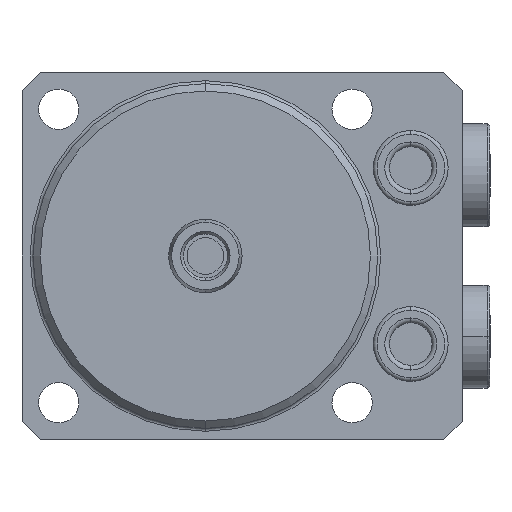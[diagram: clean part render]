
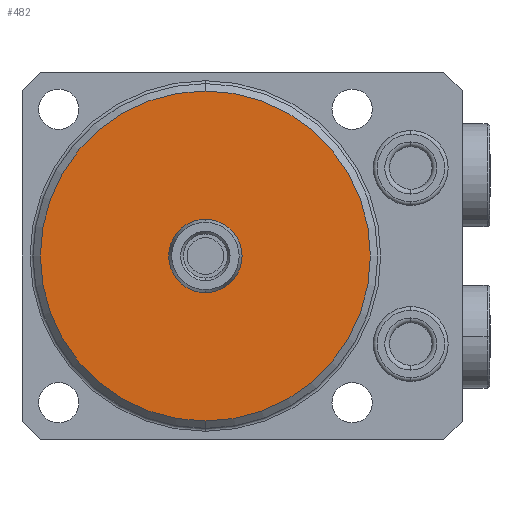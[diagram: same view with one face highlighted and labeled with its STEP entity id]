
A CAD part, front view. The second image highlights one B-rep face of the part: STEP entity #482.
In plain terms, the highlighted planar face has unit normal (0, -1, 0) as drawn and (0, 1, 0) by its records, which use the part's own axes.
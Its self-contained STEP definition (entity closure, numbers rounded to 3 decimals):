
#214=PLANE('',#4934);
#324=FACE_BOUND('',#1144,.F.);
#325=FACE_BOUND('',#1145,.F.);
#482=ADVANCED_FACE('',(#324,#325),#214,.T.);
#1144=EDGE_LOOP('',(#2046,#2047));
#1145=EDGE_LOOP('',(#2048,#2049));
#1430=CIRCLE('',#4816,5.);
#1485=CIRCLE('',#4894,22.5);
#1506=CIRCLE('',#4932,5.);
#1507=CIRCLE('',#4933,22.5);
#2046=ORIENTED_EDGE('',*,*,#3728,.T.);
#2047=ORIENTED_EDGE('',*,*,#3542,.T.);
#2048=ORIENTED_EDGE('',*,*,#3729,.T.);
#2049=ORIENTED_EDGE('',*,*,#3630,.T.);
#3098=VERTEX_POINT('',#7040);
#3099=VERTEX_POINT('',#7041);
#3170=VERTEX_POINT('',#7228);
#3171=VERTEX_POINT('',#7229);
#3542=EDGE_CURVE('',#3098,#3099,#1430,.T.);
#3630=EDGE_CURVE('',#3170,#3171,#1485,.T.);
#3728=EDGE_CURVE('',#3099,#3098,#1506,.T.);
#3729=EDGE_CURVE('',#3171,#3170,#1507,.T.);
#4816=AXIS2_PLACEMENT_3D('',#7039,#5484,#5485);
#4894=AXIS2_PLACEMENT_3D('',#7227,#5672,#5673);
#4932=AXIS2_PLACEMENT_3D('',#7506,#5798,#5799);
#4933=AXIS2_PLACEMENT_3D('',#7507,#5800,#5801);
#4934=AXIS2_PLACEMENT_3D('',#7508,#5802,#5803);
#5484=DIRECTION('',(0.,1.,0.));
#5485=DIRECTION('',(0.,0.,1.));
#5672=DIRECTION('',(0.,-1.,0.));
#5673=DIRECTION('',(0.,0.,1.));
#5798=DIRECTION('',(0.,1.,0.));
#5799=DIRECTION('',(0.,0.,1.));
#5800=DIRECTION('',(0.,-1.,0.));
#5801=DIRECTION('',(0.,0.,1.));
#5802=DIRECTION('',(0.,1.,0.));
#5803=DIRECTION('',(0.,0.,1.));
#7039=CARTESIAN_POINT('',(0.,-39.5,0.));
#7040=CARTESIAN_POINT('',(0.,-39.5,-5.));
#7041=CARTESIAN_POINT('',(0.,-39.5,5.));
#7227=CARTESIAN_POINT('',(0.,-39.5,0.));
#7228=CARTESIAN_POINT('',(0.,-39.5,-22.5));
#7229=CARTESIAN_POINT('',(0.,-39.5,22.5));
#7506=CARTESIAN_POINT('',(0.,-39.5,0.));
#7507=CARTESIAN_POINT('',(0.,-39.5,0.));
#7508=CARTESIAN_POINT('',(0.,-39.5,0.));
